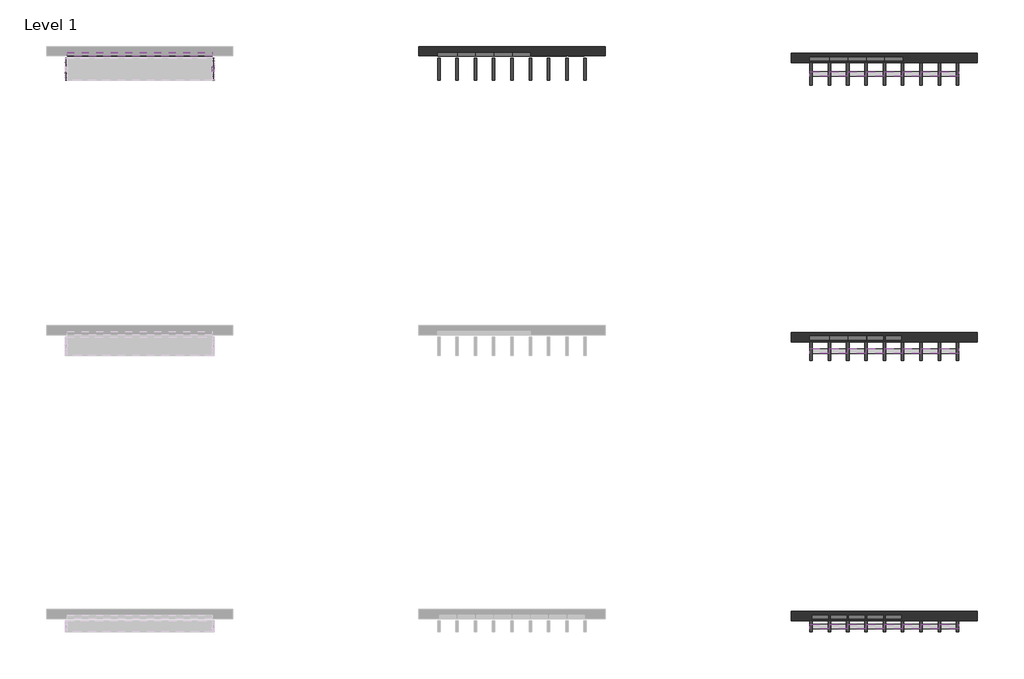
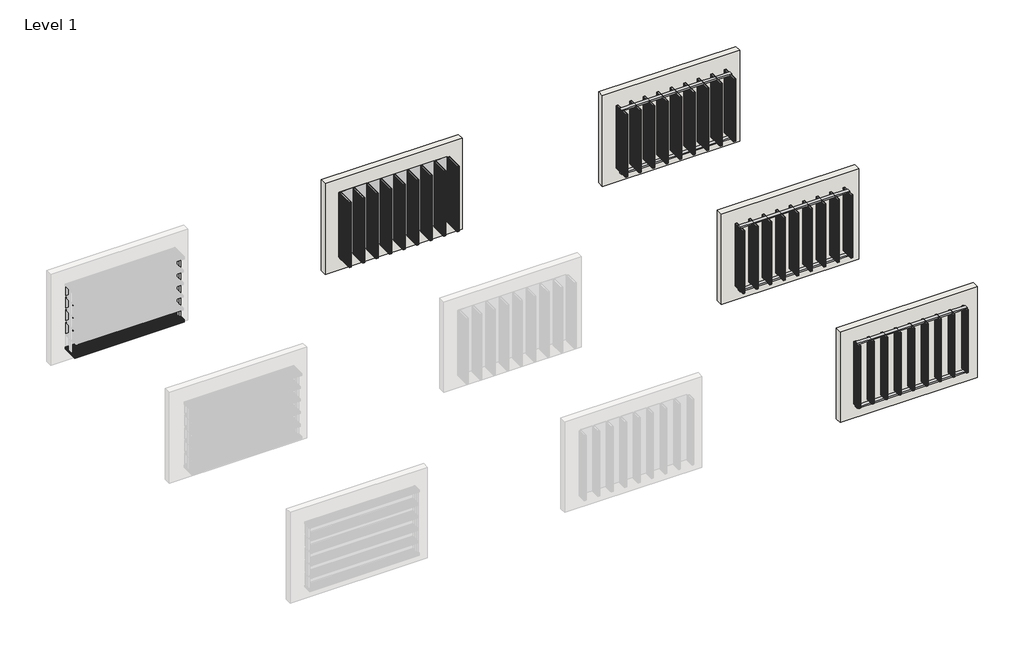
# One storey, part 2 of 2: 90 members, 36 plates, 4 walls.
"""IFC4 building model written with IfcOpenShell, lengths in millimetres."""

from ifc_helpers import new_model, si_unit, frame, origin, place, context, project, spatial, polyline, outline, extrude, transform, mapped, element, save
from components import rectangular_mullion_1aaeb193, rectangular_mullion_85800288, rectangular_mullion_b98209d4, rectangular_mullion_49b28068, rectangular_mullion_309ca4e3, rectangular_mullion_ba943581, rectangular_mullion_94cab562, rectangular_mullion_c1c5a9d6, rectangular_mullion_db812b2c, rectangular_mullion_a2c1e60b, rectangular_mullion_73104130, rectangular_mullion_2b216a6a, rectangular_mullion_909f0e36, rectangular_mullion_fd8584c2, rectangular_mullion_16207d63, rectangular_mullion_cadbc0c9, rectangular_mullion_5ed672e4, rectangular_mullion_27ded27d, rectangular_mullion_e26307d8, rectangular_mullion_56c25f51, rectangular_mullion_025464f0, rectangular_mullion_4e4cd716, rectangular_mullion_ababc4a7, rectangular_mullion_0bb7a928, rectangular_mullion_515cd994, rectangular_mullion_7d3f3cb4, rectangular_mullion_6b2175c2, empty_system_panel_empty_22caf246, empty_system_panel_empty_fb629106, empty_system_panel_empty_2b10398d, empty_system_panel_empty_9535f070, empty_system_panel_empty_6f6467e8, empty_system_panel_empty_1f33cd26, empty_system_panel_empty_f2d115f6

model = new_model("IFC4")

# Units and contexts
model_context = context("Model", 3, world=origin())
ifc_project = project(units=[si_unit("LENGTHUNIT", "METRE", prefix="MILLI")], contexts=[model_context])

# Site, building, storey
site = spatial("IfcSite", under=ifc_project)
building = spatial("IfcBuilding", under=site)
storey = spatial("IfcBuildingStorey", under=building, Name="Level 1", Elevation=0.0)

# Members
placement = place(None, origin())
rectangular_mullion_shape = rectangular_mullion_1aaeb193(model_context)
element("IfcMember", 1, ObjectType="Rectangular Mullion : DucoSun Cubic Design louvre 500", at=placement, inside=storey, context=model_context, shape_type="MappedRepresentation", body=[
    mapped(rectangular_mullion_shape, transform((-29750.3735323, 13455.0640004, 50.0), x_axis=(1.0, 0.0, 0.0), y_axis=(0.0, -1.0, 0.0), z_axis=(0.0, 0.0, -1.0))),
])
element("IfcMember", 2, ObjectType="Rectangular Mullion : DucoSun Cubic Design louvre 500", at=placement, inside=storey, context=model_context, shape_type="MappedRepresentation", body=[
    mapped(rectangular_mullion_shape, transform((-29258.8735324, 13455.0640004, 50.0), x_axis=(1.0, 0.0, 0.0), y_axis=(0.0, -1.0, 0.0), z_axis=(0.0, 0.0, -1.0))),
])
element("IfcMember", 3, ObjectType="Rectangular Mullion : DucoSun Cubic Design louvre 500", at=placement, inside=storey, context=model_context, shape_type="MappedRepresentation", body=[
    mapped(rectangular_mullion_shape, transform((-27292.8735327, 13455.0640004, 50.0), x_axis=(1.0, 0.0, 0.0), y_axis=(0.0, -1.0, 0.0), z_axis=(0.0, 0.0, -1.0))),
])
element("IfcMember", 4, ObjectType="Rectangular Mullion : DucoSun Cubic Design louvre 500", at=placement, inside=storey, context=model_context, shape_type="MappedRepresentation", body=[
    mapped(rectangular_mullion_shape, transform((-28275.8735325, 13455.0640004, 50.0), x_axis=(1.0, 0.0, 0.0), y_axis=(0.0, -1.0, 0.0), z_axis=(0.0, 0.0, -1.0))),
])
element("IfcMember", 5, ObjectType="Rectangular Mullion : DucoSun Cubic Design louvre 500", at=placement, inside=storey, context=model_context, shape_type="MappedRepresentation", body=[
    mapped(rectangular_mullion_shape, transform((-28767.3735325, 13455.0640004, 50.0), x_axis=(1.0, 0.0, 0.0), y_axis=(0.0, -1.0, 0.0), z_axis=(0.0, 0.0, -1.0))),
])
element("IfcMember", 6, ObjectType="Rectangular Mullion : DucoSun Cubic Design louvre 500", at=placement, inside=storey, context=model_context, shape_type="MappedRepresentation", body=[
    mapped(rectangular_mullion_shape, transform((-27784.3735326, 13455.0640004, 50.0), x_axis=(1.0, 0.0, 0.0), y_axis=(0.0, -1.0, 0.0), z_axis=(0.0, 0.0, -1.0))),
])
element("IfcMember", 7, ObjectType="Rectangular Mullion : DucoSun Cubic Design louvre 500", at=placement, inside=storey, context=model_context, shape_type="MappedRepresentation", body=[
    mapped(rectangular_mullion_shape, transform((-26801.3735328, 13455.0640004, 50.0), x_axis=(1.0, 0.0, 0.0), y_axis=(0.0, -1.0, 0.0), z_axis=(0.0, 0.0, -1.0))),
])
rectangular_mullion_2_shape = rectangular_mullion_85800288(model_context)
element("IfcMember", 8, ObjectType="Rectangular Mullion : DucoSun Cubic Design louvre 500", at=placement, inside=storey, context=model_context, shape_type="MappedRepresentation", body=[
    mapped(rectangular_mullion_2_shape, transform((-26275.8735325, 13455.0640004, 50.0), x_axis=(1.0, 0.0, 0.0), y_axis=(0.0, -1.0, 0.0), z_axis=(0.0, 0.0, -1.0))),
])
rectangular_mullion_3_shape = rectangular_mullion_b98209d4(model_context)
element("IfcMember", 9, ObjectType="Rectangular Mullion : DucoSun Cubic Design louvre 500", at=placement, inside=storey, context=model_context, shape_type="MappedRepresentation", body=[
    mapped(rectangular_mullion_3_shape, transform((-30275.8735325, 13455.0640004, 2450.0), x_axis=(-1.0, 0.0, 0.0), y_axis=(0.0, -1.0, 0.0), z_axis=(0.0, 0.0, 1.0))),
])
rectangular_mullion_4_shape = rectangular_mullion_49b28068(model_context)
element("IfcMember", 10, ObjectType="Rectangular Mullion : DucoSun Cubic Design louvre 600", at=placement, inside=storey, context=model_context, shape_type="MappedRepresentation", body=[
    mapped(rectangular_mullion_4_shape, transform((-29750.3735323, 20955.0640004, 50.0), x_axis=(1.0, 0.0, 0.0), y_axis=(0.0, -1.0, 0.0), z_axis=(0.0, 0.0, -1.0))),
])
element("IfcMember", 11, ObjectType="Rectangular Mullion : DucoSun Cubic Design louvre 600", at=placement, inside=storey, context=model_context, shape_type="MappedRepresentation", body=[
    mapped(rectangular_mullion_4_shape, transform((-29258.8735324, 20955.0640004, 50.0), x_axis=(1.0, 0.0, 0.0), y_axis=(0.0, -1.0, 0.0), z_axis=(0.0, 0.0, -1.0))),
])
element("IfcMember", 12, ObjectType="Rectangular Mullion : DucoSun Cubic Design louvre 600", at=placement, inside=storey, context=model_context, shape_type="MappedRepresentation", body=[
    mapped(rectangular_mullion_4_shape, transform((-28767.3735325, 20955.0640004, 50.0), x_axis=(1.0, 0.0, 0.0), y_axis=(0.0, -1.0, 0.0), z_axis=(0.0, 0.0, -1.0))),
])
element("IfcMember", 13, ObjectType="Rectangular Mullion : DucoSun Cubic Design louvre 600", at=placement, inside=storey, context=model_context, shape_type="MappedRepresentation", body=[
    mapped(rectangular_mullion_4_shape, transform((-28275.8735325, 20955.0640004, 50.0), x_axis=(1.0, 0.0, 0.0), y_axis=(0.0, -1.0, 0.0), z_axis=(0.0, 0.0, -1.0))),
])
element("IfcMember", 14, ObjectType="Rectangular Mullion : DucoSun Cubic Design louvre 600", at=placement, inside=storey, context=model_context, shape_type="MappedRepresentation", body=[
    mapped(rectangular_mullion_4_shape, transform((-27784.3735326, 20955.0640004, 50.0), x_axis=(1.0, 0.0, 0.0), y_axis=(0.0, -1.0, 0.0), z_axis=(0.0, 0.0, -1.0))),
])
element("IfcMember", 15, ObjectType="Rectangular Mullion : DucoSun Cubic Design louvre 600", at=placement, inside=storey, context=model_context, shape_type="MappedRepresentation", body=[
    mapped(rectangular_mullion_4_shape, transform((-27292.8735327, 20955.0640004, 50.0), x_axis=(1.0, 0.0, 0.0), y_axis=(0.0, -1.0, 0.0), z_axis=(0.0, 0.0, -1.0))),
])
element("IfcMember", 16, ObjectType="Rectangular Mullion : DucoSun Cubic Design louvre 600", at=placement, inside=storey, context=model_context, shape_type="MappedRepresentation", body=[
    mapped(rectangular_mullion_4_shape, transform((-26801.3735328, 20955.0640004, 50.0), x_axis=(1.0, 0.0, 0.0), y_axis=(0.0, -1.0, 0.0), z_axis=(0.0, 0.0, -1.0))),
])
rectangular_mullion_5_shape = rectangular_mullion_309ca4e3(model_context)
element("IfcMember", 17, ObjectType="Rectangular Mullion : DucoSun Cubic Design louvre 600", at=placement, inside=storey, context=model_context, shape_type="MappedRepresentation", body=[
    mapped(rectangular_mullion_5_shape, transform((-26275.8735325, 20955.0640004, 50.0), x_axis=(1.0, 0.0, 0.0), y_axis=(0.0, -1.0, 0.0), z_axis=(0.0, 0.0, -1.0))),
])
rectangular_mullion_6_shape = rectangular_mullion_ba943581(model_context)
element("IfcMember", 18, ObjectType="Rectangular Mullion : DucoSun Cubic Design louvre 600", at=placement, inside=storey, context=model_context, shape_type="MappedRepresentation", body=[
    mapped(rectangular_mullion_6_shape, transform((-30275.8735325, 20955.0640004, 2450.0), x_axis=(-1.0, 0.0, 0.0), y_axis=(0.0, -1.0, 0.0), z_axis=(0.0, 0.0, 1.0))),
])
rectangular_mullion_7_shape = rectangular_mullion_94cab562(model_context)
element("IfcMember", 19, ObjectType="Rectangular Mullion : DucoSun Cubic Design louvre 600", at=placement, inside=storey, context=model_context, shape_type="MappedRepresentation", body=[
    mapped(rectangular_mullion_7_shape, transform((-39750.3735323, 21080.0640004, 0.0), x_axis=(1.0, 0.0, 0.0), y_axis=(0.0, -1.0, 0.0), z_axis=(0.0, 0.0, -1.0))),
])
element("IfcMember", 20, ObjectType="Rectangular Mullion : DucoSun Cubic Design louvre 600", at=placement, inside=storey, context=model_context, shape_type="MappedRepresentation", body=[
    mapped(rectangular_mullion_7_shape, transform((-39258.8735324, 21080.0640004, 0.0), x_axis=(1.0, 0.0, 0.0), y_axis=(0.0, -1.0, 0.0), z_axis=(0.0, 0.0, -1.0))),
])
element("IfcMember", 21, ObjectType="Rectangular Mullion : DucoSun Cubic Design louvre 600", at=placement, inside=storey, context=model_context, shape_type="MappedRepresentation", body=[
    mapped(rectangular_mullion_7_shape, transform((-38767.3735325, 21080.0640004, 0.0), x_axis=(1.0, 0.0, 0.0), y_axis=(0.0, -1.0, 0.0), z_axis=(0.0, 0.0, -1.0))),
])
element("IfcMember", 22, ObjectType="Rectangular Mullion : DucoSun Cubic Design louvre 600", at=placement, inside=storey, context=model_context, shape_type="MappedRepresentation", body=[
    mapped(rectangular_mullion_7_shape, transform((-38275.8735325, 21080.0640004, 0.0), x_axis=(1.0, 0.0, 0.0), y_axis=(0.0, -1.0, 0.0), z_axis=(0.0, 0.0, -1.0))),
])
element("IfcMember", 23, ObjectType="Rectangular Mullion : DucoSun Cubic Design louvre 600", at=placement, inside=storey, context=model_context, shape_type="MappedRepresentation", body=[
    mapped(rectangular_mullion_7_shape, transform((-37784.3735326, 21080.0640004, 0.0), x_axis=(1.0, 0.0, 0.0), y_axis=(0.0, -1.0, 0.0), z_axis=(0.0, 0.0, -1.0))),
])
element("IfcMember", 24, ObjectType="Rectangular Mullion : DucoSun Cubic Design louvre 600", at=placement, inside=storey, context=model_context, shape_type="MappedRepresentation", body=[
    mapped(rectangular_mullion_7_shape, transform((-37292.8735327, 21080.0640004, 0.0), x_axis=(1.0, 0.0, 0.0), y_axis=(0.0, -1.0, 0.0), z_axis=(0.0, 0.0, -1.0))),
])
element("IfcMember", 25, ObjectType="Rectangular Mullion : DucoSun Cubic Design louvre 600", at=placement, inside=storey, context=model_context, shape_type="MappedRepresentation", body=[
    mapped(rectangular_mullion_7_shape, transform((-36801.3735328, 21080.0640004, 0.0), x_axis=(1.0, 0.0, 0.0), y_axis=(0.0, -1.0, 0.0), z_axis=(0.0, 0.0, -1.0))),
])
rectangular_mullion_8_shape = rectangular_mullion_c1c5a9d6(model_context)
element("IfcMember", 26, ObjectType="Rectangular Mullion : DucoSun Cubic Design louvre 600", at=placement, inside=storey, context=model_context, shape_type="MappedRepresentation", body=[
    mapped(rectangular_mullion_8_shape, transform((-36275.8735325, 21080.0640004, 0.0), x_axis=(1.0, 0.0, 0.0), y_axis=(0.0, -1.0, 0.0), z_axis=(0.0, 0.0, -1.0))),
])
rectangular_mullion_9_shape = rectangular_mullion_db812b2c(model_context)
element("IfcMember", 27, ObjectType="Rectangular Mullion : DucoSun Cubic Design louvre 600", at=placement, inside=storey, context=model_context, shape_type="MappedRepresentation", body=[
    mapped(rectangular_mullion_9_shape, transform((-40275.8735325, 21080.0640004, 2500.0), x_axis=(-1.0, 0.0, 0.0), y_axis=(0.0, -1.0, 0.0), z_axis=(0.0, 0.0, 1.0))),
])
rectangular_mullion_10_shape = rectangular_mullion_a2c1e60b(model_context)
element("IfcMember", 28, ObjectType="Rectangular Mullion : DucoSun Cubic Design louvre 300", at=placement, inside=storey, context=model_context, shape_type="MappedRepresentation", body=[
    mapped(rectangular_mullion_10_shape, transform((-27292.8735327, 5955.0640004, 50.0), x_axis=(1.0, 0.0, 0.0), y_axis=(0.0, -1.0, 0.0), z_axis=(0.0, 0.0, -1.0))),
])
element("IfcMember", 29, ObjectType="Rectangular Mullion : DucoSun Cubic Design louvre 300", at=placement, inside=storey, context=model_context, shape_type="MappedRepresentation", body=[
    mapped(rectangular_mullion_10_shape, transform((-28275.8735325, 5955.0640004, 50.0), x_axis=(1.0, 0.0, 0.0), y_axis=(0.0, -1.0, 0.0), z_axis=(0.0, 0.0, -1.0))),
])
element("IfcMember", 30, ObjectType="Rectangular Mullion : DucoSun Cubic Design louvre 300", at=placement, inside=storey, context=model_context, shape_type="MappedRepresentation", body=[
    mapped(rectangular_mullion_10_shape, transform((-29258.8735324, 5955.0640004, 50.0), x_axis=(1.0, 0.0, 0.0), y_axis=(0.0, -1.0, 0.0), z_axis=(0.0, 0.0, -1.0))),
])
element("IfcMember", 31, ObjectType="Rectangular Mullion : DucoSun Cubic Design louvre 300", at=placement, inside=storey, context=model_context, shape_type="MappedRepresentation", body=[
    mapped(rectangular_mullion_10_shape, transform((-29750.3735323, 5955.0640004, 50.0), x_axis=(1.0, 0.0, 0.0), y_axis=(0.0, -1.0, 0.0), z_axis=(0.0, 0.0, -1.0))),
])
element("IfcMember", 32, ObjectType="Rectangular Mullion : DucoSun Cubic Design louvre 300", at=placement, inside=storey, context=model_context, shape_type="MappedRepresentation", body=[
    mapped(rectangular_mullion_10_shape, transform((-28767.3735325, 5955.0640004, 50.0), x_axis=(1.0, 0.0, 0.0), y_axis=(0.0, -1.0, 0.0), z_axis=(0.0, 0.0, -1.0))),
])
element("IfcMember", 33, ObjectType="Rectangular Mullion : DucoSun Cubic Design louvre 300", at=placement, inside=storey, context=model_context, shape_type="MappedRepresentation", body=[
    mapped(rectangular_mullion_10_shape, transform((-27784.3735326, 5955.0640004, 50.0), x_axis=(1.0, 0.0, 0.0), y_axis=(0.0, -1.0, 0.0), z_axis=(0.0, 0.0, -1.0))),
])
element("IfcMember", 34, ObjectType="Rectangular Mullion : DucoSun Cubic Design louvre 300", at=placement, inside=storey, context=model_context, shape_type="MappedRepresentation", body=[
    mapped(rectangular_mullion_10_shape, transform((-26801.3735328, 5955.0640004, 50.0), x_axis=(1.0, 0.0, 0.0), y_axis=(0.0, -1.0, 0.0), z_axis=(0.0, 0.0, -1.0))),
])
rectangular_mullion_11_shape = rectangular_mullion_73104130(model_context)
element("IfcMember", 35, ObjectType="Rectangular Mullion : DucoSun Cubic Design louvre 300", at=placement, inside=storey, context=model_context, shape_type="MappedRepresentation", body=[
    mapped(rectangular_mullion_11_shape, transform((-26275.8735325, 5955.0640004, 50.0), x_axis=(1.0, 0.0, 0.0), y_axis=(0.0, -1.0, 0.0), z_axis=(0.0, 0.0, -1.0))),
])
rectangular_mullion_12_shape = rectangular_mullion_2b216a6a(model_context)
element("IfcMember", 36, ObjectType="Rectangular Mullion : DucoSun Cubic Design louvre 300", at=placement, inside=storey, context=model_context, shape_type="MappedRepresentation", body=[
    mapped(rectangular_mullion_12_shape, transform((-30275.8735325, 5955.0640004, 2450.0), x_axis=(-1.0, 0.0, 0.0), y_axis=(0.0, -1.0, 0.0), z_axis=(0.0, 0.0, 1.0))),
])
rectangular_mullion_13_shape = rectangular_mullion_909f0e36(model_context)
element("IfcMember", 37, ObjectType="Rectangular Mullion : DucoSun Cubic Design profile 50x125 for louvre 600", at=placement, inside=storey, context=model_context, shape_type="MappedRepresentation", body=[
    mapped(rectangular_mullion_13_shape, transform((-26275.8735325, 20955.0640004, 2500.0), x_axis=(0.0, 0.0, 1.0), y_axis=(0.0, -1.0, 0.0), z_axis=(1.0, 0.0, 0.0))),
])
element("IfcMember", 38, ObjectType="Rectangular Mullion : DucoSun Cubic Design profile 50x125 for louvre 600", at=placement, inside=storey, context=model_context, shape_type="MappedRepresentation", body=[
    mapped(rectangular_mullion_13_shape, transform((-29750.3735323, 20955.0640004, 2500.0), x_axis=(0.0, 0.0, 1.0), y_axis=(0.0, -1.0, 0.0), z_axis=(1.0, 0.0, 0.0))),
])
rectangular_mullion_14_shape = rectangular_mullion_fd8584c2(model_context)
element("IfcMember", 39, ObjectType="Rectangular Mullion : DucoSun Cubic Design profile 50x125 for louvre 600", at=placement, inside=storey, context=model_context, shape_type="MappedRepresentation", body=[
    mapped(rectangular_mullion_14_shape, transform((-29258.8735324, 20955.0640004, 2500.0), x_axis=(0.0, 0.0, 1.0), y_axis=(0.0, -1.0, 0.0), z_axis=(1.0, 0.0, 0.0))),
])
element("IfcMember", 40, ObjectType="Rectangular Mullion : DucoSun Cubic Design profile 50x125 for louvre 600", at=placement, inside=storey, context=model_context, shape_type="MappedRepresentation", body=[
    mapped(rectangular_mullion_14_shape, transform((-28767.3735325, 20955.0640004, 2500.0), x_axis=(0.0, 0.0, 1.0), y_axis=(0.0, -1.0, 0.0), z_axis=(1.0, 0.0, 0.0))),
])
element("IfcMember", 41, ObjectType="Rectangular Mullion : DucoSun Cubic Design profile 50x125 for louvre 600", at=placement, inside=storey, context=model_context, shape_type="MappedRepresentation", body=[
    mapped(rectangular_mullion_14_shape, transform((-28275.8735325, 20955.0640004, 2500.0), x_axis=(0.0, 0.0, 1.0), y_axis=(0.0, -1.0, 0.0), z_axis=(1.0, 0.0, 0.0))),
])
element("IfcMember", 42, ObjectType="Rectangular Mullion : DucoSun Cubic Design profile 50x125 for louvre 600", at=placement, inside=storey, context=model_context, shape_type="MappedRepresentation", body=[
    mapped(rectangular_mullion_14_shape, transform((-27784.3735326, 20955.0640004, 2500.0), x_axis=(0.0, 0.0, 1.0), y_axis=(0.0, -1.0, 0.0), z_axis=(1.0, 0.0, 0.0))),
])
element("IfcMember", 43, ObjectType="Rectangular Mullion : DucoSun Cubic Design profile 50x125 for louvre 600", at=placement, inside=storey, context=model_context, shape_type="MappedRepresentation", body=[
    mapped(rectangular_mullion_14_shape, transform((-27292.8735327, 20955.0640004, 2500.0), x_axis=(0.0, 0.0, 1.0), y_axis=(0.0, -1.0, 0.0), z_axis=(1.0, 0.0, 0.0))),
])
element("IfcMember", 44, ObjectType="Rectangular Mullion : DucoSun Cubic Design profile 50x125 for louvre 600", at=placement, inside=storey, context=model_context, shape_type="MappedRepresentation", body=[
    mapped(rectangular_mullion_14_shape, transform((-26801.3735328, 20955.0640004, 2500.0), x_axis=(0.0, 0.0, 1.0), y_axis=(0.0, -1.0, 0.0), z_axis=(1.0, 0.0, 0.0))),
])
rectangular_mullion_15_shape = rectangular_mullion_16207d63(model_context)
element("IfcMember", 45, ObjectType="Rectangular Mullion : DucoSun Cubic Design profile 50x125 for louvre 600", at=placement, inside=storey, context=model_context, shape_type="MappedRepresentation", body=[
    mapped(rectangular_mullion_15_shape, transform((-30275.8735325, 20955.0640004, 0.0), x_axis=(0.0, 0.0, -1.0), y_axis=(0.0, -1.0, 0.0), z_axis=(-1.0, 0.0, 0.0))),
])
rectangular_mullion_16_shape = rectangular_mullion_cadbc0c9(model_context)
element("IfcMember", 46, ObjectType="Rectangular Mullion : DucoSun Cubic Design profile 50x125 for louvre 600", at=placement, inside=storey, context=model_context, shape_type="MappedRepresentation", body=[
    mapped(rectangular_mullion_16_shape, transform((-29750.3735323, 20955.0640004, 0.0), x_axis=(0.0, 0.0, -1.0), y_axis=(0.0, -1.0, 0.0), z_axis=(-1.0, 0.0, 0.0))),
])
element("IfcMember", 47, ObjectType="Rectangular Mullion : DucoSun Cubic Design profile 50x125 for louvre 600", at=placement, inside=storey, context=model_context, shape_type="MappedRepresentation", body=[
    mapped(rectangular_mullion_16_shape, transform((-29258.8735324, 20955.0640004, 0.0), x_axis=(0.0, 0.0, -1.0), y_axis=(0.0, -1.0, 0.0), z_axis=(-1.0, 0.0, 0.0))),
])
element("IfcMember", 48, ObjectType="Rectangular Mullion : DucoSun Cubic Design profile 50x125 for louvre 600", at=placement, inside=storey, context=model_context, shape_type="MappedRepresentation", body=[
    mapped(rectangular_mullion_16_shape, transform((-28767.3735325, 20955.0640004, 0.0), x_axis=(0.0, 0.0, -1.0), y_axis=(0.0, -1.0, 0.0), z_axis=(-1.0, 0.0, 0.0))),
])
element("IfcMember", 49, ObjectType="Rectangular Mullion : DucoSun Cubic Design profile 50x125 for louvre 600", at=placement, inside=storey, context=model_context, shape_type="MappedRepresentation", body=[
    mapped(rectangular_mullion_16_shape, transform((-28275.8735325, 20955.0640004, 0.0), x_axis=(0.0, 0.0, -1.0), y_axis=(0.0, -1.0, 0.0), z_axis=(-1.0, 0.0, 0.0))),
])
element("IfcMember", 50, ObjectType="Rectangular Mullion : DucoSun Cubic Design profile 50x125 for louvre 600", at=placement, inside=storey, context=model_context, shape_type="MappedRepresentation", body=[
    mapped(rectangular_mullion_16_shape, transform((-27784.3735326, 20955.0640004, 0.0), x_axis=(0.0, 0.0, -1.0), y_axis=(0.0, -1.0, 0.0), z_axis=(-1.0, 0.0, 0.0))),
])
element("IfcMember", 51, ObjectType="Rectangular Mullion : DucoSun Cubic Design profile 50x125 for louvre 600", at=placement, inside=storey, context=model_context, shape_type="MappedRepresentation", body=[
    mapped(rectangular_mullion_16_shape, transform((-27292.8735327, 20955.0640004, 0.0), x_axis=(0.0, 0.0, -1.0), y_axis=(0.0, -1.0, 0.0), z_axis=(-1.0, 0.0, 0.0))),
])
element("IfcMember", 52, ObjectType="Rectangular Mullion : DucoSun Cubic Design profile 50x125 for louvre 600", at=placement, inside=storey, context=model_context, shape_type="MappedRepresentation", body=[
    mapped(rectangular_mullion_15_shape, transform((-26801.3735328, 20955.0640004, 0.0), x_axis=(0.0, 0.0, -1.0), y_axis=(0.0, -1.0, 0.0), z_axis=(-1.0, 0.0, 0.0))),
])
rectangular_mullion_17_shape = rectangular_mullion_5ed672e4(model_context)
element("IfcMember", 53, ObjectType="Rectangular Mullion : DucoSun Cubic Design profile 50x125 for louvre 500", at=placement, inside=storey, context=model_context, shape_type="MappedRepresentation", body=[
    mapped(rectangular_mullion_17_shape, transform((-26275.8735325, 13455.0640004, 2500.0), x_axis=(0.0, 0.0, 1.0), y_axis=(0.0, -1.0, 0.0), z_axis=(1.0, 0.0, 0.0))),
])
rectangular_mullion_18_shape = rectangular_mullion_27ded27d(model_context)
element("IfcMember", 54, ObjectType="Rectangular Mullion : DucoSun Cubic Design profile 50x125 for louvre 500", at=placement, inside=storey, context=model_context, shape_type="MappedRepresentation", body=[
    mapped(rectangular_mullion_18_shape, transform((-29258.8735324, 13455.0640004, 2500.0), x_axis=(0.0, 0.0, 1.0), y_axis=(0.0, -1.0, 0.0), z_axis=(1.0, 0.0, 0.0))),
])
element("IfcMember", 55, ObjectType="Rectangular Mullion : DucoSun Cubic Design profile 50x125 for louvre 500", at=placement, inside=storey, context=model_context, shape_type="MappedRepresentation", body=[
    mapped(rectangular_mullion_18_shape, transform((-28767.3735325, 13455.0640004, 2500.0), x_axis=(0.0, 0.0, 1.0), y_axis=(0.0, -1.0, 0.0), z_axis=(1.0, 0.0, 0.0))),
])
element("IfcMember", 56, ObjectType="Rectangular Mullion : DucoSun Cubic Design profile 50x125 for louvre 500", at=placement, inside=storey, context=model_context, shape_type="MappedRepresentation", body=[
    mapped(rectangular_mullion_18_shape, transform((-28275.8735325, 13455.0640004, 2500.0), x_axis=(0.0, 0.0, 1.0), y_axis=(0.0, -1.0, 0.0), z_axis=(1.0, 0.0, 0.0))),
])
element("IfcMember", 57, ObjectType="Rectangular Mullion : DucoSun Cubic Design profile 50x125 for louvre 500", at=placement, inside=storey, context=model_context, shape_type="MappedRepresentation", body=[
    mapped(rectangular_mullion_18_shape, transform((-27784.3735326, 13455.0640004, 2500.0), x_axis=(0.0, 0.0, 1.0), y_axis=(0.0, -1.0, 0.0), z_axis=(1.0, 0.0, 0.0))),
])
element("IfcMember", 58, ObjectType="Rectangular Mullion : DucoSun Cubic Design profile 50x125 for louvre 500", at=placement, inside=storey, context=model_context, shape_type="MappedRepresentation", body=[
    mapped(rectangular_mullion_18_shape, transform((-27292.8735327, 13455.0640004, 2500.0), x_axis=(0.0, 0.0, 1.0), y_axis=(0.0, -1.0, 0.0), z_axis=(1.0, 0.0, 0.0))),
])
element("IfcMember", 59, ObjectType="Rectangular Mullion : DucoSun Cubic Design profile 50x125 for louvre 500", at=placement, inside=storey, context=model_context, shape_type="MappedRepresentation", body=[
    mapped(rectangular_mullion_18_shape, transform((-26801.3735328, 13455.0640004, 2500.0), x_axis=(0.0, 0.0, 1.0), y_axis=(0.0, -1.0, 0.0), z_axis=(1.0, 0.0, 0.0))),
])
rectangular_mullion_19_shape = rectangular_mullion_e26307d8(model_context)
element("IfcMember", 60, ObjectType="Rectangular Mullion : DucoSun Cubic Design profile 50x125 for louvre 500", at=placement, inside=storey, context=model_context, shape_type="MappedRepresentation", body=[
    mapped(rectangular_mullion_19_shape, transform((-30275.8735325, 13455.0640004, 0.0), x_axis=(0.0, 0.0, -1.0), y_axis=(0.0, -1.0, 0.0), z_axis=(-1.0, 0.0, 0.0))),
])
rectangular_mullion_20_shape = rectangular_mullion_56c25f51(model_context)
element("IfcMember", 61, ObjectType="Rectangular Mullion : DucoSun Cubic Design profile 50x125 for louvre 500", at=placement, inside=storey, context=model_context, shape_type="MappedRepresentation", body=[
    mapped(rectangular_mullion_20_shape, transform((-29258.8735324, 13455.0640004, 0.0), x_axis=(0.0, 0.0, -1.0), y_axis=(0.0, -1.0, 0.0), z_axis=(-1.0, 0.0, 0.0))),
])
element("IfcMember", 62, ObjectType="Rectangular Mullion : DucoSun Cubic Design profile 50x125 for louvre 500", at=placement, inside=storey, context=model_context, shape_type="MappedRepresentation", body=[
    mapped(rectangular_mullion_20_shape, transform((-28767.3735325, 13455.0640004, 0.0), x_axis=(0.0, 0.0, -1.0), y_axis=(0.0, -1.0, 0.0), z_axis=(-1.0, 0.0, 0.0))),
])
element("IfcMember", 63, ObjectType="Rectangular Mullion : DucoSun Cubic Design profile 50x125 for louvre 500", at=placement, inside=storey, context=model_context, shape_type="MappedRepresentation", body=[
    mapped(rectangular_mullion_20_shape, transform((-28275.8735325, 13455.0640004, 0.0), x_axis=(0.0, 0.0, -1.0), y_axis=(0.0, -1.0, 0.0), z_axis=(-1.0, 0.0, 0.0))),
])
element("IfcMember", 64, ObjectType="Rectangular Mullion : DucoSun Cubic Design profile 50x125 for louvre 500", at=placement, inside=storey, context=model_context, shape_type="MappedRepresentation", body=[
    mapped(rectangular_mullion_20_shape, transform((-27784.3735326, 13455.0640004, 0.0), x_axis=(0.0, 0.0, -1.0), y_axis=(0.0, -1.0, 0.0), z_axis=(-1.0, 0.0, 0.0))),
])
element("IfcMember", 65, ObjectType="Rectangular Mullion : DucoSun Cubic Design profile 50x125 for louvre 500", at=placement, inside=storey, context=model_context, shape_type="MappedRepresentation", body=[
    mapped(rectangular_mullion_20_shape, transform((-27292.8735327, 13455.0640004, 0.0), x_axis=(0.0, 0.0, -1.0), y_axis=(0.0, -1.0, 0.0), z_axis=(-1.0, 0.0, 0.0))),
])
element("IfcMember", 66, ObjectType="Rectangular Mullion : DucoSun Cubic Design profile 50x125 for louvre 500", at=placement, inside=storey, context=model_context, shape_type="MappedRepresentation", body=[
    mapped(rectangular_mullion_20_shape, transform((-29750.3735323, 13455.0640004, 0.0), x_axis=(0.0, 0.0, -1.0), y_axis=(0.0, -1.0, 0.0), z_axis=(-1.0, 0.0, 0.0))),
])
element("IfcMember", 67, ObjectType="Rectangular Mullion : DucoSun Cubic Design profile 50x125 for louvre 500", at=placement, inside=storey, context=model_context, shape_type="MappedRepresentation", body=[
    mapped(rectangular_mullion_19_shape, transform((-26801.3735328, 13455.0640004, 0.0), x_axis=(0.0, 0.0, -1.0), y_axis=(0.0, -1.0, 0.0), z_axis=(-1.0, 0.0, 0.0))),
])
element("IfcMember", 68, ObjectType="Rectangular Mullion : DucoSun Cubic Design profile 50x125 for louvre 500", at=placement, inside=storey, context=model_context, shape_type="MappedRepresentation", body=[
    mapped(rectangular_mullion_17_shape, transform((-29750.3735323, 13455.0640004, 2500.0), x_axis=(0.0, 0.0, 1.0), y_axis=(0.0, -1.0, 0.0), z_axis=(1.0, 0.0, 0.0))),
])
rectangular_mullion_21_shape = rectangular_mullion_025464f0(model_context)
element("IfcMember", 69, ObjectType="Rectangular Mullion : DucoSun Cubic Design profile 50x125 for louvre 300", at=placement, inside=storey, context=model_context, shape_type="MappedRepresentation", body=[
    mapped(rectangular_mullion_21_shape, transform((-26275.8735325, 5955.0640004, 2500.0), x_axis=(0.0, 0.0, 1.0), y_axis=(0.0, -1.0, 0.0), z_axis=(1.0, 0.0, 0.0))),
])
rectangular_mullion_22_shape = rectangular_mullion_4e4cd716(model_context)
element("IfcMember", 70, ObjectType="Rectangular Mullion : DucoSun Cubic Design profile 50x125 for louvre 300", at=placement, inside=storey, context=model_context, shape_type="MappedRepresentation", body=[
    mapped(rectangular_mullion_22_shape, transform((-30275.8735325, 5955.0640004, 0.0), x_axis=(0.0, 0.0, -1.0), y_axis=(0.0, -1.0, 0.0), z_axis=(-1.0, 0.0, 0.0))),
])
rectangular_mullion_23_shape = rectangular_mullion_ababc4a7(model_context)
element("IfcMember", 71, ObjectType="Rectangular Mullion : DucoSun Cubic Design profile 50x125 for louvre 300", at=placement, inside=storey, context=model_context, shape_type="MappedRepresentation", body=[
    mapped(rectangular_mullion_23_shape, transform((-28275.8735325, 5955.0640004, 2500.0), x_axis=(0.0, 0.0, 1.0), y_axis=(0.0, -1.0, 0.0), z_axis=(1.0, 0.0, 0.0))),
])
element("IfcMember", 72, ObjectType="Rectangular Mullion : DucoSun Cubic Design profile 50x125 for louvre 300", at=placement, inside=storey, context=model_context, shape_type="MappedRepresentation", body=[
    mapped(rectangular_mullion_23_shape, transform((-28767.3735325, 5955.0640004, 2500.0), x_axis=(0.0, 0.0, 1.0), y_axis=(0.0, -1.0, 0.0), z_axis=(1.0, 0.0, 0.0))),
])
element("IfcMember", 73, ObjectType="Rectangular Mullion : DucoSun Cubic Design profile 50x125 for louvre 300", at=placement, inside=storey, context=model_context, shape_type="MappedRepresentation", body=[
    mapped(rectangular_mullion_23_shape, transform((-27784.3735326, 5955.0640004, 2500.0), x_axis=(0.0, 0.0, 1.0), y_axis=(0.0, -1.0, 0.0), z_axis=(1.0, 0.0, 0.0))),
])
element("IfcMember", 74, ObjectType="Rectangular Mullion : DucoSun Cubic Design profile 50x125 for louvre 300", at=placement, inside=storey, context=model_context, shape_type="MappedRepresentation", body=[
    mapped(rectangular_mullion_23_shape, transform((-29258.8735324, 5955.0640004, 2500.0), x_axis=(0.0, 0.0, 1.0), y_axis=(0.0, -1.0, 0.0), z_axis=(1.0, 0.0, 0.0))),
])
element("IfcMember", 75, ObjectType="Rectangular Mullion : DucoSun Cubic Design profile 50x125 for louvre 300", at=placement, inside=storey, context=model_context, shape_type="MappedRepresentation", body=[
    mapped(rectangular_mullion_23_shape, transform((-27292.8735327, 5955.0640004, 2500.0), x_axis=(0.0, 0.0, 1.0), y_axis=(0.0, -1.0, 0.0), z_axis=(1.0, 0.0, 0.0))),
])
element("IfcMember", 76, ObjectType="Rectangular Mullion : DucoSun Cubic Design profile 50x125 for louvre 300", at=placement, inside=storey, context=model_context, shape_type="MappedRepresentation", body=[
    mapped(rectangular_mullion_23_shape, transform((-26801.3735328, 5955.0640004, 2500.0), x_axis=(0.0, 0.0, 1.0), y_axis=(0.0, -1.0, 0.0), z_axis=(1.0, 0.0, 0.0))),
])
element("IfcMember", 77, ObjectType="Rectangular Mullion : DucoSun Cubic Design profile 50x125 for louvre 300", at=placement, inside=storey, context=model_context, shape_type="MappedRepresentation", body=[
    mapped(rectangular_mullion_21_shape, transform((-29750.3735323, 5955.0640004, 2500.0), x_axis=(0.0, 0.0, 1.0), y_axis=(0.0, -1.0, 0.0), z_axis=(1.0, 0.0, 0.0))),
])
rectangular_mullion_24_shape = rectangular_mullion_0bb7a928(model_context)
element("IfcMember", 78, ObjectType="Rectangular Mullion : DucoSun Cubic Design profile 50x125 for louvre 300", at=placement, inside=storey, context=model_context, shape_type="MappedRepresentation", body=[
    mapped(rectangular_mullion_24_shape, transform((-28275.8735325, 5955.0640004, 0.0), x_axis=(0.0, 0.0, -1.0), y_axis=(0.0, -1.0, 0.0), z_axis=(-1.0, 0.0, 0.0))),
])
element("IfcMember", 79, ObjectType="Rectangular Mullion : DucoSun Cubic Design profile 50x125 for louvre 300", at=placement, inside=storey, context=model_context, shape_type="MappedRepresentation", body=[
    mapped(rectangular_mullion_24_shape, transform((-28767.3735325, 5955.0640004, 0.0), x_axis=(0.0, 0.0, -1.0), y_axis=(0.0, -1.0, 0.0), z_axis=(-1.0, 0.0, 0.0))),
])
element("IfcMember", 80, ObjectType="Rectangular Mullion : DucoSun Cubic Design profile 50x125 for louvre 300", at=placement, inside=storey, context=model_context, shape_type="MappedRepresentation", body=[
    mapped(rectangular_mullion_24_shape, transform((-27784.3735326, 5955.0640004, 0.0), x_axis=(0.0, 0.0, -1.0), y_axis=(0.0, -1.0, 0.0), z_axis=(-1.0, 0.0, 0.0))),
])
element("IfcMember", 81, ObjectType="Rectangular Mullion : DucoSun Cubic Design profile 50x125 for louvre 300", at=placement, inside=storey, context=model_context, shape_type="MappedRepresentation", body=[
    mapped(rectangular_mullion_24_shape, transform((-29258.8735324, 5955.0640004, 0.0), x_axis=(0.0, 0.0, -1.0), y_axis=(0.0, -1.0, 0.0), z_axis=(-1.0, 0.0, 0.0))),
])
element("IfcMember", 82, ObjectType="Rectangular Mullion : DucoSun Cubic Design profile 50x125 for louvre 300", at=placement, inside=storey, context=model_context, shape_type="MappedRepresentation", body=[
    mapped(rectangular_mullion_24_shape, transform((-27292.8735327, 5955.0640004, 0.0), x_axis=(0.0, 0.0, -1.0), y_axis=(0.0, -1.0, 0.0), z_axis=(-1.0, 0.0, 0.0))),
])
element("IfcMember", 83, ObjectType="Rectangular Mullion : DucoSun Cubic Design profile 50x125 for louvre 300", at=placement, inside=storey, context=model_context, shape_type="MappedRepresentation", body=[
    mapped(rectangular_mullion_24_shape, transform((-29750.3735323, 5955.0640004, 0.0), x_axis=(0.0, 0.0, -1.0), y_axis=(0.0, -1.0, 0.0), z_axis=(-1.0, 0.0, 0.0))),
])
element("IfcMember", 84, ObjectType="Rectangular Mullion : DucoSun Cubic Design profile 50x125 for louvre 300", at=placement, inside=storey, context=model_context, shape_type="MappedRepresentation", body=[
    mapped(rectangular_mullion_22_shape, transform((-26801.3735328, 5955.0640004, 0.0), x_axis=(0.0, 0.0, -1.0), y_axis=(0.0, -1.0, 0.0), z_axis=(-1.0, 0.0, 0.0))),
])
rectangular_mullion_25_shape = rectangular_mullion_515cd994(model_context)
element("IfcMember", 85, ObjectType="Rectangular Mullion : DucoSun Cubic Design louvre 600", at=placement, inside=storey, context=model_context, shape_type="MappedRepresentation", body=[
    mapped(rectangular_mullion_25_shape, transform((-46275.8735325, 21080.0640004, 0.0), x_axis=(0.0, 0.0, -1.0), y_axis=(0.0, 1.0, 0.0), z_axis=(1.0, 0.0, 0.0))),
])
rectangular_mullion_26_shape = rectangular_mullion_7d3f3cb4(model_context)
element("IfcMember", 86, ObjectType="Rectangular Mullion : DucoSun Cubic Design profile 50x125 for louvre 600", at=placement, inside=storey, context=model_context, shape_type="MappedRepresentation", body=[
    mapped(rectangular_mullion_26_shape, transform((-46275.8735325, 21080.0640004, 2432.0), x_axis=(1.0, 0.0, 0.0), y_axis=(0.0, 1.0, 0.0), z_axis=(0.0, 0.0, 1.0))),
])
element("IfcMember", 87, ObjectType="Rectangular Mullion : DucoSun Cubic Design profile 50x125 for louvre 600", at=placement, inside=storey, context=model_context, shape_type="MappedRepresentation", body=[
    mapped(rectangular_mullion_26_shape, transform((-46275.8735325, 21080.0640004, 520.4), x_axis=(1.0, 0.0, 0.0), y_axis=(0.0, 1.0, 0.0), z_axis=(0.0, 0.0, 1.0))),
])
rectangular_mullion_27_shape = rectangular_mullion_6b2175c2(model_context)
element("IfcMember", 88, ObjectType="Rectangular Mullion : DucoSun Cubic Design profile 50x125 for louvre 600", at=placement, inside=storey, context=model_context, shape_type="MappedRepresentation", body=[
    mapped(rectangular_mullion_27_shape, transform((-46275.8735325, 21080.0640004, 1006.8), x_axis=(1.0, 0.0, 0.0), y_axis=(0.0, 1.0, 0.0), z_axis=(0.0, 0.0, 1.0))),
])
element("IfcMember", 89, ObjectType="Rectangular Mullion : DucoSun Cubic Design profile 50x125 for louvre 600", at=placement, inside=storey, context=model_context, shape_type="MappedRepresentation", body=[
    mapped(rectangular_mullion_27_shape, transform((-46275.8735325, 21080.0640004, 1493.2), x_axis=(1.0, 0.0, 0.0), y_axis=(0.0, 1.0, 0.0), z_axis=(0.0, 0.0, 1.0))),
])
element("IfcMember", 90, ObjectType="Rectangular Mullion : DucoSun Cubic Design profile 50x125 for louvre 600", at=placement, inside=storey, context=model_context, shape_type="MappedRepresentation", body=[
    mapped(rectangular_mullion_27_shape, transform((-46275.8735325, 21080.0640004, 1979.6), x_axis=(1.0, 0.0, 0.0), y_axis=(0.0, 1.0, 0.0), z_axis=(0.0, 0.0, 1.0))),
])

# Plates
empty_system_panel_empty_shape = empty_system_panel_empty_22caf246(model_context)
element("IfcPlate", 91, ObjectType="Empty System Panel : Empty", at=placement, inside=storey, context=model_context, shape_type="MappedRepresentation", body=[
    mapped(empty_system_panel_empty_shape, transform((-30013.1235324, 13455.0640004, 50.0), x_axis=(1.0, 0.0, 0.0), y_axis=(0.0, 1.0, 0.0), z_axis=(0.0, 0.0, 1.0))),
])
element("IfcPlate", 92, ObjectType="Empty System Panel : Empty", at=placement, inside=storey, context=model_context, shape_type="MappedRepresentation", body=[
    mapped(empty_system_panel_empty_shape, transform((-30013.1235324, 20955.0640004, 50.0), x_axis=(1.0, 0.0, 0.0), y_axis=(0.0, 1.0, 0.0), z_axis=(0.0, 0.0, 1.0))),
])
empty_system_panel_empty_2_shape = empty_system_panel_empty_fb629106(model_context)
element("IfcPlate", 93, ObjectType="Empty System Panel : Empty", at=placement, inside=storey, context=model_context, shape_type="MappedRepresentation", body=[
    mapped(empty_system_panel_empty_2_shape, transform((-29504.6235323, 13455.0640004, 50.0), x_axis=(1.0, 0.0, 0.0), y_axis=(0.0, 1.0, 0.0), z_axis=(0.0, 0.0, 1.0))),
])
element("IfcPlate", 94, ObjectType="Empty System Panel : Empty", at=placement, inside=storey, context=model_context, shape_type="MappedRepresentation", body=[
    mapped(empty_system_panel_empty_2_shape, transform((-29013.1235324, 13455.0640004, 50.0), x_axis=(1.0, 0.0, 0.0), y_axis=(0.0, 1.0, 0.0), z_axis=(0.0, 0.0, 1.0))),
])
element("IfcPlate", 95, ObjectType="Empty System Panel : Empty", at=placement, inside=storey, context=model_context, shape_type="MappedRepresentation", body=[
    mapped(empty_system_panel_empty_2_shape, transform((-29504.6235323, 20955.0640004, 50.0), x_axis=(1.0, 0.0, 0.0), y_axis=(0.0, 1.0, 0.0), z_axis=(0.0, 0.0, 1.0))),
])
element("IfcPlate", 96, ObjectType="Empty System Panel : Empty", at=placement, inside=storey, context=model_context, shape_type="MappedRepresentation", body=[
    mapped(empty_system_panel_empty_2_shape, transform((-29013.1235324, 20955.0640004, 50.0), x_axis=(1.0, 0.0, 0.0), y_axis=(0.0, 1.0, 0.0), z_axis=(0.0, 0.0, 1.0))),
])
element("IfcPlate", 97, ObjectType="Empty System Panel : Empty", at=placement, inside=storey, context=model_context, shape_type="MappedRepresentation", body=[
    mapped(empty_system_panel_empty_2_shape, transform((-28521.6235325, 20955.0640004, 50.0), x_axis=(1.0, 0.0, 0.0), y_axis=(0.0, 1.0, 0.0), z_axis=(0.0, 0.0, 1.0))),
])
element("IfcPlate", 98, ObjectType="Empty System Panel : Empty", at=placement, inside=storey, context=model_context, shape_type="MappedRepresentation", body=[
    mapped(empty_system_panel_empty_2_shape, transform((-28030.1235326, 20955.0640004, 50.0), x_axis=(1.0, 0.0, 0.0), y_axis=(0.0, 1.0, 0.0), z_axis=(0.0, 0.0, 1.0))),
])
element("IfcPlate", 99, ObjectType="Empty System Panel : Empty", at=placement, inside=storey, context=model_context, shape_type="MappedRepresentation", body=[
    mapped(empty_system_panel_empty_2_shape, transform((-27538.6235327, 20955.0640004, 50.0), x_axis=(1.0, 0.0, 0.0), y_axis=(0.0, 1.0, 0.0), z_axis=(0.0, 0.0, 1.0))),
])
element("IfcPlate", 100, ObjectType="Empty System Panel : Empty", at=placement, inside=storey, context=model_context, shape_type="MappedRepresentation", body=[
    mapped(empty_system_panel_empty_2_shape, transform((-27047.1235327, 20955.0640004, 50.0), x_axis=(1.0, 0.0, 0.0), y_axis=(0.0, 1.0, 0.0), z_axis=(0.0, 0.0, 1.0))),
])
empty_system_panel_empty_3_shape = empty_system_panel_empty_2b10398d(model_context)
element("IfcPlate", 101, ObjectType="Empty System Panel : Empty", at=placement, inside=storey, context=model_context, shape_type="MappedRepresentation", body=[
    mapped(empty_system_panel_empty_3_shape, transform((-40013.1235324, 21080.0640004, 0.0), x_axis=(1.0, 0.0, 0.0), y_axis=(0.0, 1.0, 0.0), z_axis=(0.0, 0.0, 1.0))),
])
empty_system_panel_empty_4_shape = empty_system_panel_empty_9535f070(model_context)
element("IfcPlate", 102, ObjectType="Empty System Panel : Empty", at=placement, inside=storey, context=model_context, shape_type="MappedRepresentation", body=[
    mapped(empty_system_panel_empty_4_shape, transform((-39504.6235323, 21080.0640004, 0.0), x_axis=(1.0, 0.0, 0.0), y_axis=(0.0, 1.0, 0.0), z_axis=(0.0, 0.0, 1.0))),
])
element("IfcPlate", 103, ObjectType="Empty System Panel : Empty", at=placement, inside=storey, context=model_context, shape_type="MappedRepresentation", body=[
    mapped(empty_system_panel_empty_4_shape, transform((-39013.1235324, 21080.0640004, 0.0), x_axis=(1.0, 0.0, 0.0), y_axis=(0.0, 1.0, 0.0), z_axis=(0.0, 0.0, 1.0))),
])
element("IfcPlate", 104, ObjectType="Empty System Panel : Empty", at=placement, inside=storey, context=model_context, shape_type="MappedRepresentation", body=[
    mapped(empty_system_panel_empty_4_shape, transform((-38521.6235325, 21080.0640004, 0.0), x_axis=(1.0, 0.0, 0.0), y_axis=(0.0, 1.0, 0.0), z_axis=(0.0, 0.0, 1.0))),
])
element("IfcPlate", 105, ObjectType="Empty System Panel : Empty", at=placement, inside=storey, context=model_context, shape_type="MappedRepresentation", body=[
    mapped(empty_system_panel_empty_4_shape, transform((-38030.1235326, 21080.0640004, 0.0), x_axis=(1.0, 0.0, 0.0), y_axis=(0.0, 1.0, 0.0), z_axis=(0.0, 0.0, 1.0))),
])
element("IfcPlate", 106, ObjectType="Empty System Panel : Empty", at=placement, inside=storey, context=model_context, shape_type="MappedRepresentation", body=[
    mapped(empty_system_panel_empty_4_shape, transform((-37538.6235327, 21080.0640004, 0.0), x_axis=(1.0, 0.0, 0.0), y_axis=(0.0, 1.0, 0.0), z_axis=(0.0, 0.0, 1.0))),
])
element("IfcPlate", 107, ObjectType="Empty System Panel : Empty", at=placement, inside=storey, context=model_context, shape_type="MappedRepresentation", body=[
    mapped(empty_system_panel_empty_4_shape, transform((-37047.1235327, 21080.0640004, 0.0), x_axis=(1.0, 0.0, 0.0), y_axis=(0.0, 1.0, 0.0), z_axis=(0.0, 0.0, 1.0))),
])
empty_system_panel_empty_5_shape = empty_system_panel_empty_6f6467e8(model_context)
element("IfcPlate", 108, ObjectType="Empty System Panel : Empty", at=placement, inside=storey, context=model_context, shape_type="MappedRepresentation", body=[
    mapped(empty_system_panel_empty_5_shape, transform((-29996.1235324, 5955.0640004, 50.0), x_axis=(1.0, 0.0, 0.0), y_axis=(0.0, 1.0, 0.0), z_axis=(0.0, 0.0, 1.0))),
])
element("IfcPlate", 109, ObjectType="Empty System Panel : Empty", at=placement, inside=storey, context=model_context, shape_type="MappedRepresentation", body=[
    mapped(empty_system_panel_empty_5_shape, transform((-28521.6235325, 13455.0640004, 50.0), x_axis=(1.0, 0.0, 0.0), y_axis=(0.0, 1.0, 0.0), z_axis=(0.0, 0.0, 1.0))),
])
element("IfcPlate", 110, ObjectType="Empty System Panel : Empty", at=placement, inside=storey, context=model_context, shape_type="MappedRepresentation", body=[
    mapped(empty_system_panel_empty_5_shape, transform((-28030.1235326, 13455.0640004, 50.0), x_axis=(1.0, 0.0, 0.0), y_axis=(0.0, 1.0, 0.0), z_axis=(0.0, 0.0, 1.0))),
])
element("IfcPlate", 111, ObjectType="Empty System Panel : Empty", at=placement, inside=storey, context=model_context, shape_type="MappedRepresentation", body=[
    mapped(empty_system_panel_empty_5_shape, transform((-27538.6235327, 13455.0640004, 50.0), x_axis=(1.0, 0.0, 0.0), y_axis=(0.0, 1.0, 0.0), z_axis=(0.0, 0.0, 1.0))),
])
element("IfcPlate", 112, ObjectType="Empty System Panel : Empty", at=placement, inside=storey, context=model_context, shape_type="MappedRepresentation", body=[
    mapped(empty_system_panel_empty_5_shape, transform((-27047.1235327, 13455.0640004, 50.0), x_axis=(1.0, 0.0, 0.0), y_axis=(0.0, 1.0, 0.0), z_axis=(0.0, 0.0, 1.0))),
])
element("IfcPlate", 113, ObjectType="Empty System Panel : Empty", at=placement, inside=storey, context=model_context, shape_type="MappedRepresentation", body=[
    mapped(empty_system_panel_empty_5_shape, transform((-26555.6235327, 13455.0640004, 50.0), x_axis=(1.0, 0.0, 0.0), y_axis=(0.0, 1.0, 0.0), z_axis=(0.0, 0.0, 1.0))),
])
element("IfcPlate", 114, ObjectType="Empty System Panel : Empty", at=placement, inside=storey, context=model_context, shape_type="MappedRepresentation", body=[
    mapped(empty_system_panel_empty_5_shape, transform((-29504.6235323, 5955.0640004, 50.0), x_axis=(1.0, 0.0, 0.0), y_axis=(0.0, 1.0, 0.0), z_axis=(0.0, 0.0, 1.0))),
])
element("IfcPlate", 115, ObjectType="Empty System Panel : Empty", at=placement, inside=storey, context=model_context, shape_type="MappedRepresentation", body=[
    mapped(empty_system_panel_empty_5_shape, transform((-29013.1235324, 5955.0640004, 50.0), x_axis=(1.0, 0.0, 0.0), y_axis=(0.0, 1.0, 0.0), z_axis=(0.0, 0.0, 1.0))),
])
element("IfcPlate", 116, ObjectType="Empty System Panel : Empty", at=placement, inside=storey, context=model_context, shape_type="MappedRepresentation", body=[
    mapped(empty_system_panel_empty_5_shape, transform((-28521.6235325, 5955.0640004, 50.0), x_axis=(1.0, 0.0, 0.0), y_axis=(0.0, 1.0, 0.0), z_axis=(0.0, 0.0, 1.0))),
])
element("IfcPlate", 117, ObjectType="Empty System Panel : Empty", at=placement, inside=storey, context=model_context, shape_type="MappedRepresentation", body=[
    mapped(empty_system_panel_empty_5_shape, transform((-28030.1235326, 5955.0640004, 50.0), x_axis=(1.0, 0.0, 0.0), y_axis=(0.0, 1.0, 0.0), z_axis=(0.0, 0.0, 1.0))),
])
element("IfcPlate", 118, ObjectType="Empty System Panel : Empty", at=placement, inside=storey, context=model_context, shape_type="MappedRepresentation", body=[
    mapped(empty_system_panel_empty_5_shape, transform((-27538.6235327, 5955.0640004, 50.0), x_axis=(1.0, 0.0, 0.0), y_axis=(0.0, 1.0, 0.0), z_axis=(0.0, 0.0, 1.0))),
])
element("IfcPlate", 119, ObjectType="Empty System Panel : Empty", at=placement, inside=storey, context=model_context, shape_type="MappedRepresentation", body=[
    mapped(empty_system_panel_empty_5_shape, transform((-27047.1235327, 5955.0640004, 50.0), x_axis=(1.0, 0.0, 0.0), y_axis=(0.0, 1.0, 0.0), z_axis=(0.0, 0.0, 1.0))),
])
element("IfcPlate", 120, ObjectType="Empty System Panel : Empty", at=placement, inside=storey, context=model_context, shape_type="MappedRepresentation", body=[
    mapped(empty_system_panel_empty_5_shape, transform((-26555.6235327, 5955.0640004, 50.0), x_axis=(1.0, 0.0, 0.0), y_axis=(0.0, 1.0, 0.0), z_axis=(0.0, 0.0, 1.0))),
])
element("IfcPlate", 121, ObjectType="Empty System Panel : Empty", at=placement, inside=storey, context=model_context, shape_type="MappedRepresentation", body=[
    mapped(empty_system_panel_empty_5_shape, transform((-26555.6235327, 20955.0640004, 50.0), x_axis=(1.0, 0.0, 0.0), y_axis=(0.0, 1.0, 0.0), z_axis=(0.0, 0.0, 1.0))),
])
empty_system_panel_empty_6_shape = empty_system_panel_empty_1f33cd26(model_context)
element("IfcPlate", 122, ObjectType="Empty System Panel : Empty", at=placement, inside=storey, context=model_context, shape_type="MappedRepresentation", body=[
    mapped(empty_system_panel_empty_6_shape, transform((-36555.6235327, 21080.0640004, 0.0), x_axis=(1.0, 0.0, 0.0), y_axis=(0.0, 1.0, 0.0), z_axis=(0.0, 0.0, 1.0))),
])
empty_system_panel_empty_7_shape = empty_system_panel_empty_f2d115f6(model_context)
element("IfcPlate", 123, ObjectType="Empty System Panel : Empty", at=placement, inside=storey, context=model_context, shape_type="MappedRepresentation", body=[
    mapped(empty_system_panel_empty_7_shape, transform((-48275.8735325, 21080.0640004, 552.4), x_axis=(-1.0, 0.0, 0.0), y_axis=(0.0, -1.0, 0.0), z_axis=(0.0, 0.0, 1.0))),
])
element("IfcPlate", 124, ObjectType="Empty System Panel : Empty", at=placement, inside=storey, context=model_context, shape_type="MappedRepresentation", body=[
    mapped(empty_system_panel_empty_7_shape, transform((-48275.8735325, 21080.0640004, 1038.8), x_axis=(-1.0, 0.0, 0.0), y_axis=(0.0, -1.0, 0.0), z_axis=(0.0, 0.0, 1.0))),
])
element("IfcPlate", 125, ObjectType="Empty System Panel : Empty", at=placement, inside=storey, context=model_context, shape_type="MappedRepresentation", body=[
    mapped(empty_system_panel_empty_7_shape, transform((-48275.8735325, 21080.0640004, 1525.2), x_axis=(-1.0, 0.0, 0.0), y_axis=(0.0, -1.0, 0.0), z_axis=(0.0, 0.0, 1.0))),
])
element("IfcPlate", 126, ObjectType="Empty System Panel : Empty", at=placement, inside=storey, context=model_context, shape_type="MappedRepresentation", body=[
    mapped(empty_system_panel_empty_7_shape, transform((-48275.8735325, 21080.0640004, 2011.6), x_axis=(-1.0, 0.0, 0.0), y_axis=(0.0, -1.0, 0.0), z_axis=(0.0, 0.0, 1.0))),
])

# Walls
element("IfcWall", 127, ObjectType="Baisic", at=placement, inside=storey, context=model_context, shape_type="SweptSolid", body=[
    extrude(outline(polyline([(-35775.8735325, 21140.0640004), (-40775.8735325, 21140.0640004), (-40775.8735325, 21390.0640004), (-35775.8735325, 21390.0640004), (-35775.8735325, 21140.0640004)])), frame((0.0, 0.0, -500.0), z_axis=(0.0, 0.0, 1.0), x_axis=(1.0, 0.0, 0.0)), (0.0, 0.0, 1.0), 3500.0),
])
element("IfcWall", 128, ObjectType="Baisic", at=placement, inside=storey, context=model_context, shape_type="SweptSolid", body=[
    extrude(outline(polyline([(-25775.8735325, 20955.0640004), (-30775.8735325, 20955.0640004), (-30775.8735325, 21205.0640004), (-25775.8735325, 21205.0640004), (-25775.8735325, 20955.0640004)])), frame((0.0, 0.0, -500.0), z_axis=(0.0, 0.0, 1.0), x_axis=(1.0, 0.0, 0.0)), (0.0, 0.0, 1.0), 3500.0),
])
element("IfcWall", 129, ObjectType="Baisic", at=placement, inside=storey, context=model_context, shape_type="SweptSolid", body=[
    extrude(outline(polyline([(-25775.8735325, 13455.0640004), (-30775.8735325, 13455.0640004), (-30775.8735325, 13705.0640004), (-25775.8735325, 13705.0640004), (-25775.8735325, 13455.0640004)])), frame((0.0, 0.0, -500.0), z_axis=(0.0, 0.0, 1.0), x_axis=(1.0, 0.0, 0.0)), (0.0, 0.0, 1.0), 3500.0),
])
element("IfcWall", 130, ObjectType="Baisic", at=placement, inside=storey, context=model_context, shape_type="SweptSolid", body=[
    extrude(outline(polyline([(-25775.8735325, 5955.0640004), (-30775.8735325, 5955.0640004), (-30775.8735325, 6205.0640004), (-25775.8735325, 6205.0640004), (-25775.8735325, 5955.0640004)])), frame((0.0, 0.0, -500.0), z_axis=(0.0, 0.0, 1.0), x_axis=(1.0, 0.0, 0.0)), (0.0, 0.0, 1.0), 3500.0),
])

save(model, "model.ifc")
